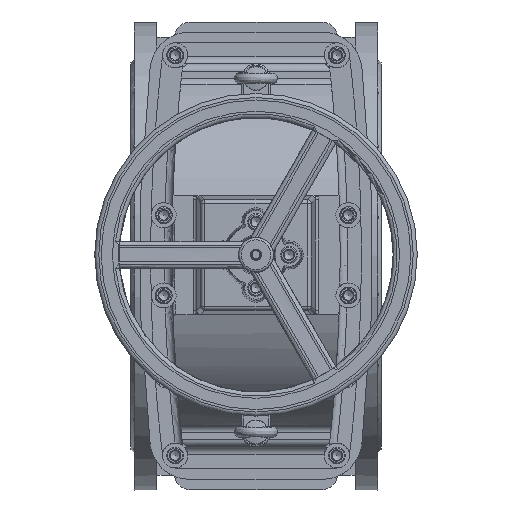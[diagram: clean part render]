
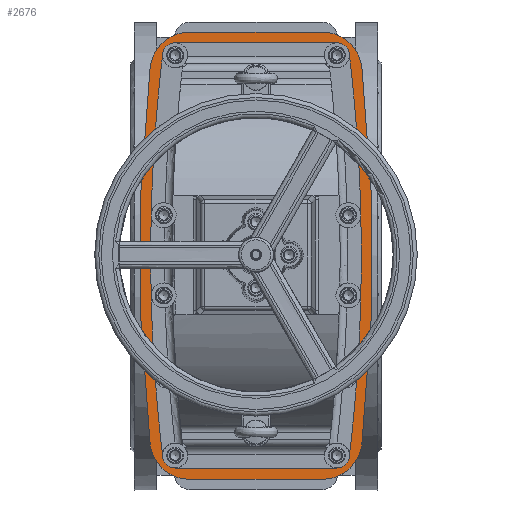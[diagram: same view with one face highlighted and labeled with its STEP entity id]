
A CAD part, top view. The second image highlights one B-rep face of the part: STEP entity #2676.
In plain terms, the highlighted planar face has unit normal (0, 0, 1).
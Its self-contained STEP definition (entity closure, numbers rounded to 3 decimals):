
#2676=ADVANCED_FACE('',(#9143,#9145),#9147,.T.);
#9143=FACE_BOUND('',#9144,.T.);
#9144=EDGE_LOOP('',(#27942,#27943,#27944,#27945,#27946,#27947,#27948,#27949));
#9145=FACE_BOUND('',#9146,.T.);
#9146=EDGE_LOOP('',(#27950,#27951,#27952,#27953,#27954,#27955,#27956,#27957,#27958,
#27959,#27960,#27961,#27962,#27963,#27964,#27965));
#9147=PLANE('',#9148);
#9148=AXIS2_PLACEMENT_3D('',#9149,#9150,#9151);
#9149=CARTESIAN_POINT('',(0.,0.,335.333));
#9150=DIRECTION('',(0.,0.,1.));
#9151=DIRECTION('',(-1.,0.,0.));
#27942=ORIENTED_EDGE('',*,*,#32141,.T.);
#27943=ORIENTED_EDGE('',*,*,#32139,.T.);
#27944=ORIENTED_EDGE('',*,*,#32137,.T.);
#27945=ORIENTED_EDGE('',*,*,#32135,.T.);
#27946=ORIENTED_EDGE('',*,*,#32133,.T.);
#27947=ORIENTED_EDGE('',*,*,#32131,.T.);
#27948=ORIENTED_EDGE('',*,*,#32129,.T.);
#27949=ORIENTED_EDGE('',*,*,#32127,.T.);
#27950=ORIENTED_EDGE('',*,*,#32435,.F.);
#27951=ORIENTED_EDGE('',*,*,#32436,.F.);
#27952=ORIENTED_EDGE('',*,*,#32437,.T.);
#27953=ORIENTED_EDGE('',*,*,#32438,.T.);
#27954=ORIENTED_EDGE('',*,*,#32439,.T.);
#27955=ORIENTED_EDGE('',*,*,#32440,.T.);
#27956=ORIENTED_EDGE('',*,*,#32441,.T.);
#27957=ORIENTED_EDGE('',*,*,#32442,.F.);
#27958=ORIENTED_EDGE('',*,*,#32443,.F.);
#27959=ORIENTED_EDGE('',*,*,#32444,.F.);
#27960=ORIENTED_EDGE('',*,*,#32445,.T.);
#27961=ORIENTED_EDGE('',*,*,#32446,.T.);
#27962=ORIENTED_EDGE('',*,*,#32447,.T.);
#27963=ORIENTED_EDGE('',*,*,#32448,.T.);
#27964=ORIENTED_EDGE('',*,*,#32449,.T.);
#27965=ORIENTED_EDGE('',*,*,#32450,.F.);
#32127=EDGE_CURVE('',#35254,#35252,#35255,.T.);
#32129=EDGE_CURVE('',#35257,#35254,#35258,.T.);
#32131=EDGE_CURVE('',#35260,#35257,#35261,.T.);
#32133=EDGE_CURVE('',#35263,#35260,#35264,.T.);
#32135=EDGE_CURVE('',#35266,#35263,#35267,.T.);
#32137=EDGE_CURVE('',#35269,#35266,#35270,.T.);
#32139=EDGE_CURVE('',#35272,#35269,#35273,.T.);
#32141=EDGE_CURVE('',#35252,#35272,#35275,.T.);
#32435=EDGE_CURVE('',#35714,#35715,#35716,.T.);
#32436=EDGE_CURVE('',#35717,#35714,#35718,.T.);
#32437=EDGE_CURVE('',#35717,#35719,#35720,.F.);
#32438=EDGE_CURVE('',#35719,#35721,#35722,.T.);
#32439=EDGE_CURVE('',#35721,#35723,#35724,.T.);
#32440=EDGE_CURVE('',#35723,#35725,#35726,.T.);
#32441=EDGE_CURVE('',#35725,#35727,#35728,.F.);
#32442=EDGE_CURVE('',#35729,#35727,#35730,.T.);
#32443=EDGE_CURVE('',#35731,#35729,#35732,.T.);
#32444=EDGE_CURVE('',#35733,#35731,#35734,.F.);
#32445=EDGE_CURVE('',#35733,#35735,#35736,.F.);
#32446=EDGE_CURVE('',#35735,#35737,#35738,.T.);
#32447=EDGE_CURVE('',#35737,#35739,#35740,.T.);
#32448=EDGE_CURVE('',#35739,#35741,#35742,.T.);
#32449=EDGE_CURVE('',#35741,#35743,#35744,.F.);
#32450=EDGE_CURVE('',#35715,#35743,#35745,.F.);
#35252=VERTEX_POINT('',#47117);
#35254=VERTEX_POINT('',#47121);
#35255=CIRCLE('',#47122,2118.302);
#35257=VERTEX_POINT('',#47129);
#35258=CIRCLE('',#47130,49.333);
#35260=VERTEX_POINT('',#47137);
#35261=LINE('',#47138,#47139);
#35263=VERTEX_POINT('',#47144);
#35264=CIRCLE('',#47145,49.333);
#35266=VERTEX_POINT('',#47152);
#35267=CIRCLE('',#47153,2118.302);
#35269=VERTEX_POINT('',#47160);
#35270=CIRCLE('',#47161,49.333);
#35272=VERTEX_POINT('',#47168);
#35273=LINE('',#47169,#47170);
#35275=CIRCLE('',#47175,49.333);
#35714=VERTEX_POINT('',#48227);
#35715=VERTEX_POINT('',#48228);
#35716=LINE('',#48229,#48230);
#35717=VERTEX_POINT('',#48232);
#35718=LINE('',#48233,#48234);
#35719=VERTEX_POINT('',#48236);
#35720=CIRCLE('',#48237,2078.302);
#35721=VERTEX_POINT('',#48241);
#35722=CIRCLE('',#48242,9.333);
#35723=VERTEX_POINT('',#48246);
#35724=LINE('',#48247,#48248);
#35725=VERTEX_POINT('',#48250);
#35726=CIRCLE('',#48251,9.333);
#35727=VERTEX_POINT('',#48255);
#35728=CIRCLE('',#48256,2078.302);
#35729=VERTEX_POINT('',#48260);
#35730=LINE('',#48261,#48262);
#35731=VERTEX_POINT('',#48264);
#35732=LINE('',#48265,#48266);
#35733=VERTEX_POINT('',#48268);
#35734=LINE('',#48269,#48270);
#35735=VERTEX_POINT('',#48272);
#35736=CIRCLE('',#48273,2078.302);
#35737=VERTEX_POINT('',#48277);
#35738=CIRCLE('',#48278,9.333);
#35739=VERTEX_POINT('',#48282);
#35740=LINE('',#48283,#48284);
#35741=VERTEX_POINT('',#48286);
#35742=CIRCLE('',#48287,9.333);
#35743=VERTEX_POINT('',#48291);
#35744=CIRCLE('',#48292,2078.302);
#35745=LINE('',#48296,#48297);
#47117=CARTESIAN_POINT('',(131.332,233.437,335.333));
#47121=CARTESIAN_POINT('',(131.332,-233.437,335.333));
#47122=AXIS2_PLACEMENT_3D('',#47123,#47124,#47125);
#47123=CARTESIAN_POINT('',(-1974.068,0.,335.333));
#47124=DIRECTION('',(0.,0.,1.));
#47125=DIRECTION('',(0.994,-0.11,0.));
#47129=CARTESIAN_POINT('',(82.299,-277.333,335.333));
#47130=AXIS2_PLACEMENT_3D('',#47131,#47132,#47133);
#47131=CARTESIAN_POINT('',(82.299,-228.,335.333));
#47132=DIRECTION('',(0.,0.,1.));
#47133=DIRECTION('',(0.,-1.,0.));
#47137=CARTESIAN_POINT('',(-82.299,-277.333,335.333));
#47138=CARTESIAN_POINT('',(-82.299,-277.333,335.333));
#47139=VECTOR('',#47140,1.);
#47140=DIRECTION('',(1.,0.,0.));
#47144=CARTESIAN_POINT('',(-131.332,-233.437,335.333));
#47145=AXIS2_PLACEMENT_3D('',#47146,#47147,#47148);
#47146=CARTESIAN_POINT('',(-82.299,-228.,335.333));
#47147=DIRECTION('',(0.,0.,1.));
#47148=DIRECTION('',(-0.994,-0.11,0.));
#47152=CARTESIAN_POINT('',(-131.332,233.437,335.333));
#47153=AXIS2_PLACEMENT_3D('',#47154,#47155,#47156);
#47154=CARTESIAN_POINT('',(1974.068,0.,335.333));
#47155=DIRECTION('',(0.,0.,1.));
#47156=DIRECTION('',(-0.994,0.11,0.));
#47160=CARTESIAN_POINT('',(-82.299,277.333,335.333));
#47161=AXIS2_PLACEMENT_3D('',#47162,#47163,#47164);
#47162=CARTESIAN_POINT('',(-82.299,228.,335.333));
#47163=DIRECTION('',(0.,0.,1.));
#47164=DIRECTION('',(0.,1.,0.));
#47168=CARTESIAN_POINT('',(82.299,277.333,335.333));
#47169=CARTESIAN_POINT('',(82.299,277.333,335.333));
#47170=VECTOR('',#47171,1.);
#47171=DIRECTION('',(-1.,0.,0.));
#47175=AXIS2_PLACEMENT_3D('',#47176,#47177,#47178);
#47176=CARTESIAN_POINT('',(82.299,228.,335.333));
#47177=DIRECTION('',(0.,0.,1.));
#47178=DIRECTION('',(0.994,0.11,0.));
#48227=CARTESIAN_POINT('',(-123.,4.667,335.333));
#48228=CARTESIAN_POINT('',(-123.,-4.667,335.333));
#48229=CARTESIAN_POINT('',(-123.,4.667,335.333));
#48230=VECTOR('',#48231,1.);
#48231=DIRECTION('',(0.,-1.,0.));
#48232=CARTESIAN_POINT('',(-104.228,4.667,335.333));
#48233=CARTESIAN_POINT('',(-104.228,4.667,335.333));
#48234=VECTOR('',#48235,1.);
#48235=DIRECTION('',(-1.,0.,0.));
#48236=CARTESIAN_POINT('',(-91.576,229.029,335.333));
#48237=AXIS2_PLACEMENT_3D('',#48238,#48239,#48240);
#48238=CARTESIAN_POINT('',(1974.068,0.,335.333));
#48239=DIRECTION('',(0.,0.,1.));
#48240=DIRECTION('',(-0.994,0.11,0.));
#48241=CARTESIAN_POINT('',(-82.299,237.333,335.333));
#48242=AXIS2_PLACEMENT_3D('',#48243,#48244,#48245);
#48243=CARTESIAN_POINT('',(-82.299,228.,335.333));
#48244=DIRECTION('',(0.,0.,-1.));
#48245=DIRECTION('',(-0.994,0.11,0.));
#48246=CARTESIAN_POINT('',(82.299,237.333,335.333));
#48247=CARTESIAN_POINT('',(-82.299,237.333,335.333));
#48248=VECTOR('',#48249,1.);
#48249=DIRECTION('',(1.,0.,0.));
#48250=CARTESIAN_POINT('',(91.576,229.029,335.333));
#48251=AXIS2_PLACEMENT_3D('',#48252,#48253,#48254);
#48252=CARTESIAN_POINT('',(82.299,228.,335.333));
#48253=DIRECTION('',(0.,0.,-1.));
#48254=DIRECTION('',(0.,1.,0.));
#48255=CARTESIAN_POINT('',(104.228,4.667,335.333));
#48256=AXIS2_PLACEMENT_3D('',#48257,#48258,#48259);
#48257=CARTESIAN_POINT('',(-1974.068,0.,335.333));
#48258=DIRECTION('',(0.,0.,1.));
#48259=DIRECTION('',(1.,0.002,0.));
#48260=CARTESIAN_POINT('',(123.,4.667,335.333));
#48261=CARTESIAN_POINT('',(123.,4.667,335.333));
#48262=VECTOR('',#48263,1.);
#48263=DIRECTION('',(-1.,0.,0.));
#48264=CARTESIAN_POINT('',(123.,-4.667,335.333));
#48265=CARTESIAN_POINT('',(123.,-4.667,335.333));
#48266=VECTOR('',#48267,1.);
#48267=DIRECTION('',(0.,1.,0.));
#48268=CARTESIAN_POINT('',(104.228,-4.667,335.333));
#48269=CARTESIAN_POINT('',(123.,-4.667,335.333));
#48270=VECTOR('',#48271,1.);
#48271=DIRECTION('',(-1.,0.,0.));
#48272=CARTESIAN_POINT('',(91.576,-229.029,335.333));
#48273=AXIS2_PLACEMENT_3D('',#48274,#48275,#48276);
#48274=CARTESIAN_POINT('',(-1974.068,0.,335.333));
#48275=DIRECTION('',(0.,0.,1.));
#48276=DIRECTION('',(0.994,-0.11,0.));
#48277=CARTESIAN_POINT('',(82.299,-237.333,335.333));
#48278=AXIS2_PLACEMENT_3D('',#48279,#48280,#48281);
#48279=CARTESIAN_POINT('',(82.299,-228.,335.333));
#48280=DIRECTION('',(0.,0.,-1.));
#48281=DIRECTION('',(0.994,-0.11,0.));
#48282=CARTESIAN_POINT('',(-82.299,-237.333,335.333));
#48283=CARTESIAN_POINT('',(82.299,-237.333,335.333));
#48284=VECTOR('',#48285,1.);
#48285=DIRECTION('',(-1.,0.,0.));
#48286=CARTESIAN_POINT('',(-91.576,-229.029,335.333));
#48287=AXIS2_PLACEMENT_3D('',#48288,#48289,#48290);
#48288=CARTESIAN_POINT('',(-82.299,-228.,335.333));
#48289=DIRECTION('',(0.,0.,-1.));
#48290=DIRECTION('',(0.,-1.,0.));
#48291=CARTESIAN_POINT('',(-104.228,-4.667,335.333));
#48292=AXIS2_PLACEMENT_3D('',#48293,#48294,#48295);
#48293=CARTESIAN_POINT('',(1974.068,0.,335.333));
#48294=DIRECTION('',(0.,0.,1.));
#48295=DIRECTION('',(-1.,-0.002,0.));
#48296=CARTESIAN_POINT('',(-104.228,-4.667,335.333));
#48297=VECTOR('',#48298,1.);
#48298=DIRECTION('',(-1.,0.,0.));
